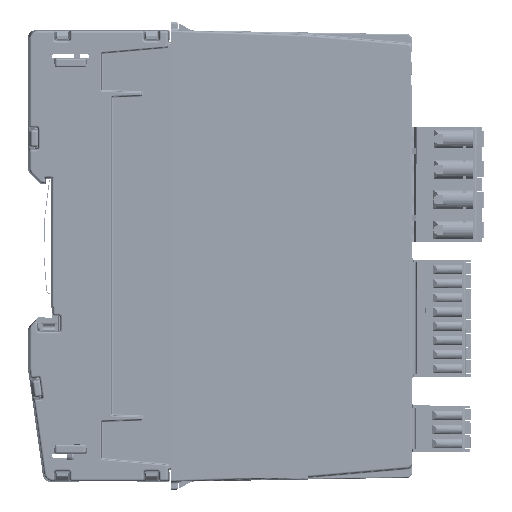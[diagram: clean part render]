
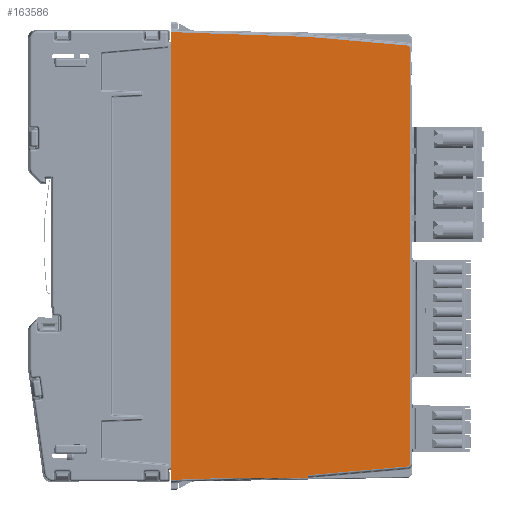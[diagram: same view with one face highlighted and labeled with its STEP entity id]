
A CAD part, left-side view. The second image highlights one B-rep face of the part: STEP entity #163586.
In plain terms, the highlighted planar face has unit normal (-1, -0.018, 0).
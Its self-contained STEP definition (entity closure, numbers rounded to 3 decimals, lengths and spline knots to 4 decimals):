
#15641=FACE_OUTER_BOUND('',#24706,.T.);
#24706=EDGE_LOOP('',(#137948,#137949,#137950,#137951,#137952,#137953,#137954,
#137955,#137956,#137957,#137958,#137959,#137960));
#40705=LINE('',#279010,#57207);
#40718=LINE('',#279082,#57220);
#40775=LINE('',#279310,#57277);
#41100=LINE('',#280684,#57602);
#41101=LINE('',#280686,#57603);
#41102=LINE('',#280690,#57604);
#41103=LINE('',#280694,#57605);
#41104=LINE('',#280696,#57606);
#41105=LINE('',#280698,#57607);
#41106=LINE('',#280700,#57608);
#41107=LINE('',#280701,#57609);
#57207=VECTOR('',#215342,0.3937);
#57220=VECTOR('',#215383,0.3937);
#57277=VECTOR('',#215578,39.3701);
#57602=VECTOR('',#216307,39.3701);
#57603=VECTOR('',#216308,39.3701);
#57604=VECTOR('',#216311,39.3701);
#57605=VECTOR('',#216314,39.3701);
#57606=VECTOR('',#216315,39.3701);
#57607=VECTOR('',#216316,39.3701);
#57608=VECTOR('',#216317,39.3701);
#57609=VECTOR('',#216318,39.3701);
#59957=ELLIPSE('',#176140,0.0315,0.0315);
#59958=ELLIPSE('',#176141,0.0315,0.0315);
#73103=VERTEX_POINT('',#279006);
#73105=VERTEX_POINT('',#279009);
#73127=VERTEX_POINT('',#279077);
#73185=VERTEX_POINT('',#279309);
#73516=VERTEX_POINT('',#280683);
#73517=VERTEX_POINT('',#280685);
#73518=VERTEX_POINT('',#280687);
#73519=VERTEX_POINT('',#280689);
#73520=VERTEX_POINT('',#280691);
#73521=VERTEX_POINT('',#280693);
#73522=VERTEX_POINT('',#280695);
#73523=VERTEX_POINT('',#280697);
#73524=VERTEX_POINT('',#280699);
#94601=EDGE_CURVE('',#73103,#73105,#40705,.T.);
#94628=EDGE_CURVE('',#73105,#73127,#40718,.T.);
#94721=EDGE_CURVE('',#73185,#73127,#40775,.T.);
#95194=EDGE_CURVE('',#73103,#73516,#41100,.T.);
#95195=EDGE_CURVE('',#73516,#73517,#41101,.T.);
#95196=EDGE_CURVE('',#73517,#73518,#59957,.T.);
#95197=EDGE_CURVE('',#73518,#73519,#41102,.T.);
#95198=EDGE_CURVE('',#73519,#73520,#59958,.T.);
#95199=EDGE_CURVE('',#73520,#73521,#41103,.T.);
#95200=EDGE_CURVE('',#73521,#73522,#41104,.T.);
#95201=EDGE_CURVE('',#73522,#73523,#41105,.T.);
#95202=EDGE_CURVE('',#73524,#73523,#41106,.T.);
#95203=EDGE_CURVE('',#73524,#73185,#41107,.T.);
#137948=ORIENTED_EDGE('',*,*,#95194,.T.);
#137949=ORIENTED_EDGE('',*,*,#95195,.T.);
#137950=ORIENTED_EDGE('',*,*,#95196,.T.);
#137951=ORIENTED_EDGE('',*,*,#95197,.T.);
#137952=ORIENTED_EDGE('',*,*,#95198,.T.);
#137953=ORIENTED_EDGE('',*,*,#95199,.T.);
#137954=ORIENTED_EDGE('',*,*,#95200,.T.);
#137955=ORIENTED_EDGE('',*,*,#95201,.T.);
#137956=ORIENTED_EDGE('',*,*,#95202,.F.);
#137957=ORIENTED_EDGE('',*,*,#95203,.T.);
#137958=ORIENTED_EDGE('',*,*,#94721,.T.);
#137959=ORIENTED_EDGE('',*,*,#94628,.F.);
#137960=ORIENTED_EDGE('',*,*,#94601,.F.);
#147171=PLANE('',#176139);
#163586=ADVANCED_FACE('',(#15641),#147171,.T.);
#176139=AXIS2_PLACEMENT_3D('',#280682,#216305,#216306);
#176140=AXIS2_PLACEMENT_3D('',#280688,#216309,#216310);
#176141=AXIS2_PLACEMENT_3D('',#280692,#216312,#216313);
#215342=DIRECTION('',(0.,0.,-1.));
#215383=DIRECTION('',(-0.017,1.,0.));
#215578=DIRECTION('',(0.017,-0.999,0.035));
#216305=DIRECTION('center_axis',(-1.,-0.017,
0.));
#216306=DIRECTION('ref_axis',(-0.017,1.,0.));
#216307=DIRECTION('',(0.017,-0.999,0.035));
#216308=DIRECTION('',(0.017,-0.996,0.087));
#216309=DIRECTION('center_axis',(-1.,-0.017,
0.));
#216310=DIRECTION('ref_axis',(0.017,-1.,0.));
#216311=DIRECTION('',(0.,0.,1.));
#216312=DIRECTION('center_axis',(-1.,-0.017,
0.));
#216313=DIRECTION('ref_axis',(0.017,-1.,0.));
#216314=DIRECTION('',(-0.017,0.996,0.087));
#216315=DIRECTION('',(-0.017,0.999,0.035));
#216316=DIRECTION('',(0.,0.,-1.));
#216317=DIRECTION('',(0.,0.,1.));
#216318=DIRECTION('',(0.,0.,-1.));
#279006=CARTESIAN_POINT('',(0.0005,-2.2096,-4.1958));
#279009=CARTESIAN_POINT('',(0.0005,-2.2096,-4.2206));
#279010=CARTESIAN_POINT('',(0.0005,-2.2096,-3.155));
#279077=CARTESIAN_POINT('',(-0.0119,-1.4997,-4.2206));
#279082=CARTESIAN_POINT('',(-0.0131,-1.4351,-4.2206));
#279309=CARTESIAN_POINT('',(-0.0227,-0.8827,-4.2421));
#279310=CARTESIAN_POINT('',(-0.0282,-0.5654,-4.2532));
#280682=CARTESIAN_POINT('Origin',(-0.0296,-0.489,
-2.0669));
#280683=CARTESIAN_POINT('',(0.0007,-2.2205,-4.1954));
#280684=CARTESIAN_POINT('',(-0.0282,-0.5654,-4.2532));
#280685=CARTESIAN_POINT('',(0.0174,-3.1772,-4.1117));
#280686=CARTESIAN_POINT('',(-0.0261,-0.6869,-4.3296));
#280687=CARTESIAN_POINT('',(0.0179,-3.2059,-4.0803));
#280688=CARTESIAN_POINT('Origin',(0.0173,-3.1744,
-4.0803));
#280689=CARTESIAN_POINT('',(0.0179,-3.2059,-0.0535));
#280690=CARTESIAN_POINT('',(0.0179,-3.2059,-0.0535));
#280691=CARTESIAN_POINT('',(0.0174,-3.1772,-0.0221));
#280692=CARTESIAN_POINT('Origin',(0.0173,-3.1744,
-0.0535));
#280693=CARTESIAN_POINT('',(0.0007,-2.2205,0.0616));
#280694=CARTESIAN_POINT('',(-0.0261,-0.6869,0.1957));
#280695=CARTESIAN_POINT('',(-0.0227,-0.8827,0.1083));
#280696=CARTESIAN_POINT('',(-0.0282,-0.5654,0.1194));
#280697=CARTESIAN_POINT('',(-0.0227,-0.8827,-0.0312));
#280698=CARTESIAN_POINT('',(-0.0227,-0.8827,0.128));
#280699=CARTESIAN_POINT('',(-0.0227,-0.8827,-4.1027));
#280700=CARTESIAN_POINT('',(-0.0227,-0.8827,-7.5932));
#280701=CARTESIAN_POINT('',(-0.0227,-0.8827,0.128));
